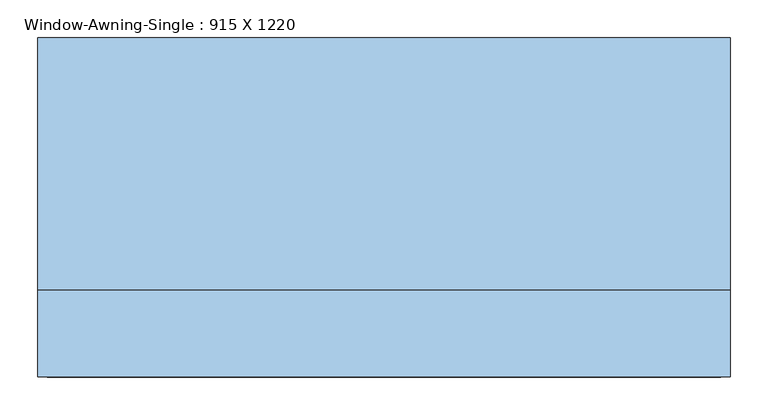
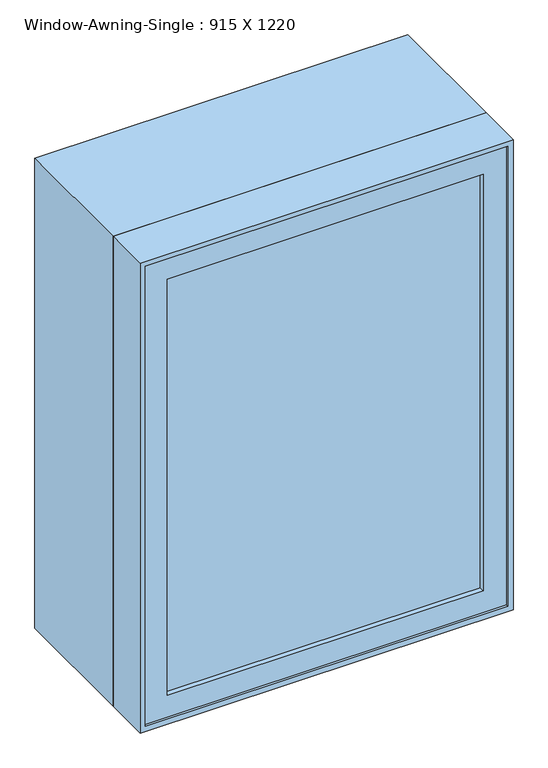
"""IFC4 building model written with IfcOpenShell, lengths in millimetres: window geometry, Window-Awning-Single : 915 X 1220."""

from ifc_helpers import new_model, si_unit, frame, origin, place, context, project, spatial, polyline, outline, extrude, faceted_brep, source, transform, mapped, element, save


def window_awning_single_915_x_1220_597a1cb3(model_context):
    return source(origin(), model_context, "Body", "SolidModel", [
        faceted_brep([(444.8, -182.75, 927.1), (-444.8, -182.75, 927.1), (-444.8, -233.55, 927.1), (444.8, -233.55, 927.1), (425.75, -119.25, 946.15), (-425.75, -119.25, 946.15), (-425.75, -182.75, 946.15), (425.75, -182.75, 946.15), (457.5, -233.55, 914.4), (-457.5, -233.55, 914.4), (-457.5, -119.25, 914.4), (457.5, -119.25, 914.4), (-444.8, -182.75, 2121.7), (-444.8, -233.55, 2121.7), (-425.75, -119.25, 2102.65), (-425.75, -182.75, 2102.65), (-457.5, -233.55, 2134.4), (-457.5, -119.25, 2134.4), (444.8, -182.75, 2121.7), (444.8, -233.55, 2121.7), (425.75, -119.25, 2102.65), (425.75, -182.75, 2102.65), (457.5, -233.55, 2134.4), (457.5, -119.25, 2134.4)], [[[0, 1, 2, 3]], [[4, 5, 6, 7]], [[8, 9, 10, 11]], [[1, 12, 13, 2]], [[5, 14, 15, 6]], [[9, 16, 17, 10]], [[12, 18, 19, 13]], [[14, 20, 21, 15]], [[16, 22, 23, 17]], [[9, 8, 22, 16], [3, 2, 13, 19]], [[18, 0, 3, 19]], [[1, 0, 18, 12], [7, 6, 15, 21]], [[20, 4, 7, 21]], [[11, 10, 17, 23], [5, 4, 20, 14]], [[22, 8, 11, 23]]]),
        extrude(outline(polyline([(387.65, -214.5), (-387.65, -214.5), (-387.65, -208.15), (387.65, -208.15), (387.65, -214.5)])), frame((0.0, 0.0, 984.25), z_axis=(0.0, 0.0, 1.0), x_axis=(1.0, 0.0, 0.0)), (0.0, 0.0, 1.0), 1080.3),
        extrude(outline(polyline([(387.65, -201.8), (-387.65, -201.8), (-387.65, -195.45), (387.65, -195.45), (387.65, -201.8)])), frame((0.0, 0.0, 984.25), z_axis=(0.0, 0.0, 1.0), x_axis=(1.0, 0.0, 0.0)), (0.0, 0.0, 1.0), 1080.3),
        extrude(outline(polyline([(2121.7, -444.8), (927.1, -444.8), (927.1, 444.8), (2121.7, 444.8), (2121.7, -444.8)]), holes=[polyline([(984.25, -387.65), (2064.55, -387.65), (2064.55, 387.65), (984.25, 387.65), (984.25, -387.65)])]), frame((0.0, -227.2, 0.0), z_axis=(0.0, 1.0, 0.0), x_axis=(0.0, 0.0, 1.0)), (0.0, 0.0, 1.0), 44.45),
        extrude(outline(polyline([(2134.4, -457.5), (914.4, -457.5), (914.4, 457.5), (2134.4, 457.5), (2134.4, -457.5)]), holes=[polyline([(2115.35, -438.45), (2115.35, 438.45), (933.45, 438.45), (933.45, -438.45), (2115.35, -438.45)])]), frame((0.0, -119.25, 0.0), z_axis=(0.0, 1.0, 0.0), x_axis=(0.0, 0.0, 1.0)), (0.0, 0.0, 1.0), 333.75),
    ])


if __name__ == "__main__":
    model = new_model("IFC4")
    model_context = context("Model", 3, world=origin())
    ifc_project = project(units=[si_unit("LENGTHUNIT", "METRE", prefix="MILLI")], contexts=[model_context])
    site = spatial("IfcSite", under=ifc_project)
    building = spatial("IfcBuilding", under=site)
    placement = place(None, origin())
    window_awning_single_915_x_1220_shape = window_awning_single_915_x_1220_597a1cb3(model_context)
    element("IfcWindow", 1, ObjectType="Window-Awning-Single : 915 X 1220", at=placement, inside=building, context=model_context, shape_type="MappedRepresentation", body=[
        mapped(window_awning_single_915_x_1220_shape, transform((0.0, 0.0, 0.0), x_axis=(1.0, 0.0, 0.0), y_axis=(0.0, 1.0, 0.0), z_axis=(0.0, 0.0, 1.0))),
    ])
    save(model, "model.ifc")
